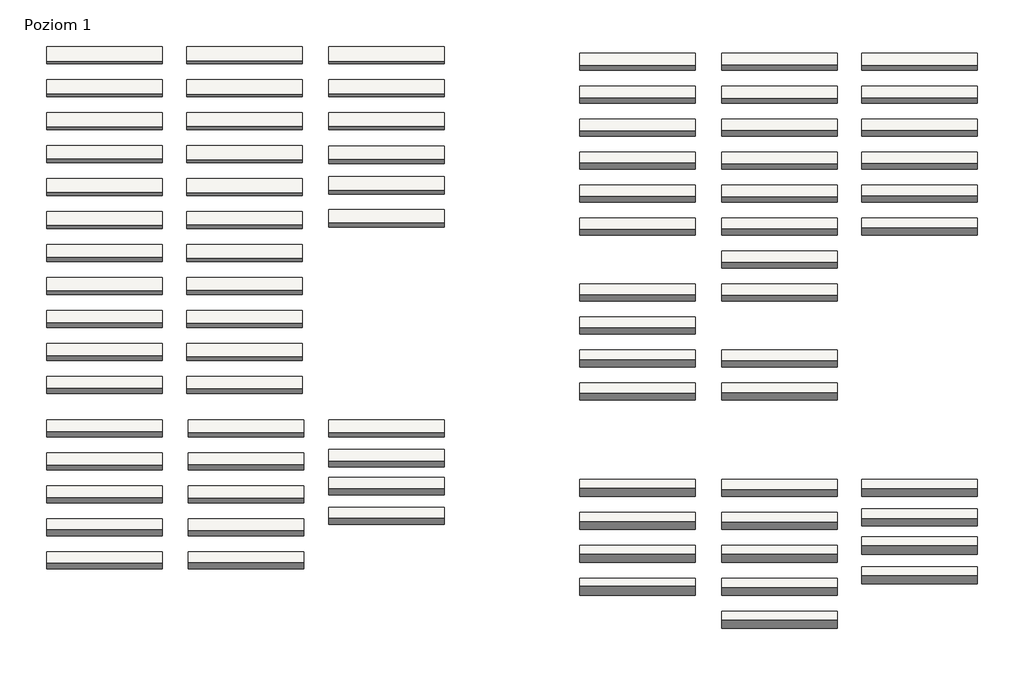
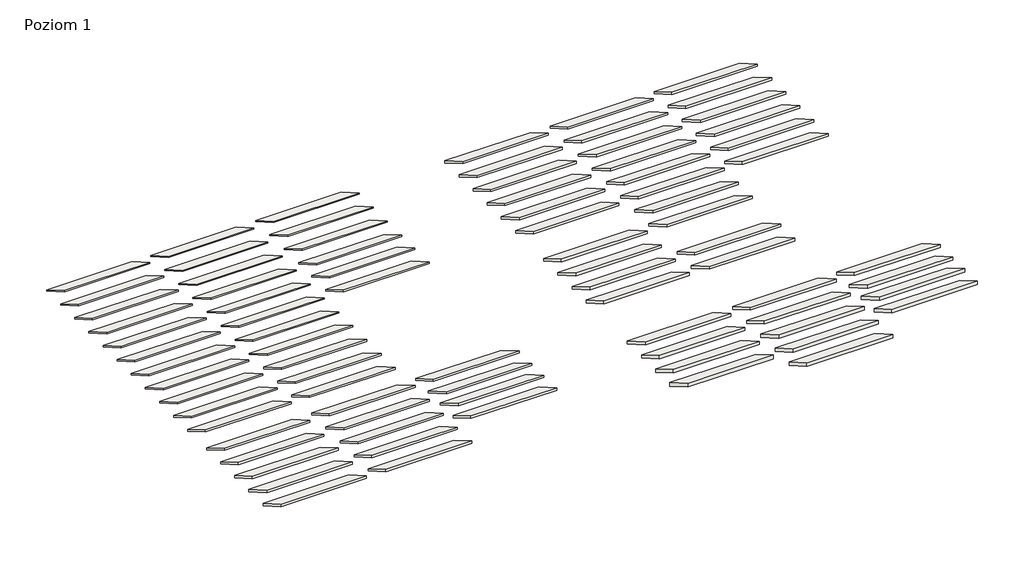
# One storey: 81 roofs.
"""IFC4 building model written with IfcOpenShell, lengths in millimetres."""

import ifcopenshell
import ifcopenshell.guid

model = None  # the IFC model being written
_history = None  # IfcOwnerHistory: only IFC2X3 demands one
_inside = {}  # id of a spatial element -> (the spatial element, [elements in it])
_under = {}  # id of a project, library or spatial element -> (it, [spatial elements below it])
_declared = {}  # id of a project -> (the project, [libraries it declares])
_typed = {}  # id of a type object -> (the type object, [elements of that type])
_made_of = {}  # id of a material, layer set ... -> (it, [elements and type objects made of it])


def new_model(schema):
    """Start an empty IFC model of exactly this schema.

    Asked for "IFC4X3", IfcOpenShell would pick the latest addendum, in which some entities
    have other attributes; the version numbers below select the first issue.
    IFC2X3 requires an IfcOwnerHistory on every rooted entity: one is made here for all.
    """
    global model, _history
    if schema == "IFC4X3":
        model = ifcopenshell.file(schema_version=(4, 3, 0, 0))
    else:
        model = ifcopenshell.file(schema=schema)
    _inside.clear()
    _under.clear()
    _declared.clear()
    _typed.clear()
    _made_of.clear()
    _history = None
    if model.schema == "IFC2X3":
        org = make("IfcOrganization", Name="unknown")
        user = make(
            "IfcPersonAndOrganization",
            ThePerson=make("IfcPerson", FamilyName="unknown"),
            TheOrganization=org,
        )
        app = make(
            "IfcApplication",
            ApplicationDeveloper=org,
            Version="unknown",
            ApplicationFullName="unknown",
            ApplicationIdentifier="unknown",
        )
        _history = make(
            "IfcOwnerHistory",
            OwningUser=user,
            OwningApplication=app,
            ChangeAction="ADDED",
            CreationDate=0,
        )
    return model


def make(cls, **values):
    """One entity of the class cls with the attributes given. An attribute that is None is left unset."""
    return model.create_entity(
        cls, **{name: value for name, value in values.items() if value is not None}
    )


def rooted(cls, **values):
    """An entity with a GlobalId (a new one), such as an element, a storey or a relation."""
    return make(cls, GlobalId=ifcopenshell.guid.new(), OwnerHistory=_history, **values)


def si_unit(unit_type, name, prefix=None):
    """IfcSIUnit, for example si_unit("LENGTHUNIT", "METRE", prefix="MILLI")."""
    return make("IfcSIUnit", UnitType=unit_type, Prefix=prefix, Name=name)


def assignment(units):
    """IfcUnitAssignment: the units of a project."""
    return None if units is None else make("IfcUnitAssignment", Units=units)


def point(xyz):
    """IfcCartesianPoint."""
    return None if xyz is None else make("IfcCartesianPoint", Coordinates=xyz)


def direction(xyz):
    """IfcDirection."""
    return None if xyz is None else make("IfcDirection", DirectionRatios=xyz)


def frame(location, z_axis=None, x_axis=None):
    """IfcAxis2Placement3D, a coordinate frame: its origin and axes. An axis left out is left unset."""
    return make(
        "IfcAxis2Placement3D",
        Location=point(location),
        Axis=direction(z_axis),
        RefDirection=direction(x_axis),
    )


def origin():
    """The frame at (0, 0, 0) with its axes left unset."""
    return frame((0.0, 0.0, 0.0))


def place(relative_to, where):
    """IfcLocalPlacement: puts the frame where relative to a parent placement (None: the world)."""
    return make(
        "IfcLocalPlacement", PlacementRelTo=relative_to, RelativePlacement=where
    )


def context(
    kind, dimensions, precision=None, world=None, true_north=None, identifier=None
):
    """IfcGeometricRepresentationContext, for example the 3D "Model" context."""
    return make(
        "IfcGeometricRepresentationContext",
        ContextIdentifier=identifier,
        ContextType=kind,
        CoordinateSpaceDimension=dimensions,
        Precision=precision,
        WorldCoordinateSystem=world,
        TrueNorth=true_north,
    )


def project(units=None, contexts=None):
    """IfcProject with its units and contexts."""
    return rooted(
        "IfcProject",
        Name="project",
        RepresentationContexts=contexts,
        UnitsInContext=assignment(units),
    )


def spatial(cls, under=None, at=None, **own):
    """A site, building, storey or space (cls), placed at a placement, below another one or the project."""
    s = rooted(cls, ObjectPlacement=at, **own)
    if under is not None:
        _under.setdefault(under.id(), (under, []))[1].append(s)
    return s


def polyline(points):
    """IfcPolyline through the points."""
    return make("IfcPolyline", Points=[point(p) for p in points])


def outline(outer, holes=None, kind="AREA"):
    """IfcArbitraryClosedProfileDef: a profile drawn as a closed curve; with holes, ...WithVoids."""
    if holes is None:
        return make("IfcArbitraryClosedProfileDef", ProfileType=kind, OuterCurve=outer)
    return make(
        "IfcArbitraryProfileDefWithVoids",
        ProfileType=kind,
        OuterCurve=outer,
        InnerCurves=holes,
    )


def extrude(swept, where, along, depth):
    """IfcExtrudedAreaSolid: the profile swept, set in the frame where, extruded along a direction by depth."""
    return make(
        "IfcExtrudedAreaSolid",
        SweptArea=swept,
        Position=where,
        ExtrudedDirection=direction(along),
        Depth=depth,
    )


def shape(context_of_items, identifier, shape_type, items):
    """IfcShapeRepresentation: the items that make up one representation, for example the "Body"."""
    return make(
        "IfcShapeRepresentation",
        ContextOfItems=context_of_items,
        RepresentationIdentifier=identifier,
        RepresentationType=shape_type,
        Items=items,
    )


def made_of(thing, what):
    """Note that an element or type object is made of a material, layer set ...; save() writes the relation."""
    if what is not None:
        _made_of.setdefault(what.id(), (what, []))[1].append(thing)
    return thing


def element(
    cls,
    number,
    at=None,
    inside=None,
    cuts=None,
    type_object=None,
    material=None,
    context=None,
    identifier="Body",
    shape_type=None,
    held_by="IfcProductDefinitionShape",
    body=None,
    shapes=None,
    **own,
):
    """One element of the class cls, such as IfcWall. Its Tag is "e" and its number.

    at: its placement. inside: the storey or other place that contains it. cuts: it is an
    opening in that element (IfcRelVoidsElement). A single representation is given by context,
    identifier, shape_type and body (its items); several are given by shapes. held_by: the class
    of the entity that holds the representations. save() writes the other relations.
    """
    e = rooted(cls, Tag="e%d" % number, ObjectPlacement=at, **own)
    if body is not None:
        shapes = [shape(context, identifier, shape_type, body)]
    if shapes is not None:
        e.Representation = make(held_by, Representations=shapes)
    if inside is not None:
        _inside.setdefault(inside.id(), (inside, []))[1].append(e)
    if cuts is not None:
        rooted(
            "IfcRelVoidsElement", RelatingBuildingElement=cuts, RelatedOpeningElement=e
        )
    if type_object is not None:
        _typed.setdefault(type_object.id(), (type_object, []))[1].append(e)
    return made_of(e, material)


def aggregate(whole, parts):
    """IfcRelAggregates: a whole, such as a stair, and the parts it consists of."""
    return rooted("IfcRelAggregates", RelatingObject=whole, RelatedObjects=parts)


def save(model, path):
    """Write the relations noted so far, then the file.

    IfcRelAggregates (storeys below a building ...), IfcRelContainedInSpatialStructure (elements
    in a storey), IfcRelDefinesByType, IfcRelAssociatesMaterial and IfcRelDeclares: one each for
    every whole, place, type object, material and project.
    """
    for whole, parts in _under.values():
        aggregate(whole, parts)
    for where, things in _inside.values():
        rooted(
            "IfcRelContainedInSpatialStructure",
            RelatedElements=things,
            RelatingStructure=where,
        )
    for kind, things in _typed.values():
        rooted("IfcRelDefinesByType", RelatedObjects=things, RelatingType=kind)
    for what, things in _made_of.values():
        rooted("IfcRelAssociatesMaterial", RelatedObjects=things, RelatingMaterial=what)
    for by, libraries in _declared.values():
        rooted("IfcRelDeclares", RelatingContext=by, RelatedDefinitions=libraries)
    model.write(path)


model = new_model("IFC4")

# Units and contexts
model_context = context("Model", 3, world=origin())
ifc_project = project(units=[si_unit("LENGTHUNIT", "METRE", prefix="MILLI")], contexts=[model_context])

# Site, building, storey
site = spatial("IfcSite", under=ifc_project)
building = spatial("IfcBuilding", under=site)
storey = spatial("IfcBuildingStorey", under=building, Name="Poziom 1", Elevation=0.0)

# Roofs
placement = place(None, origin())
element("IfcRoof", 1, ObjectType="ISOVER.DP.PlatynowyDach100.BLACHA.U0,36", at=placement, inside=storey, context=model_context, shape_type="SweptSolid", body=[
    extrude(outline(polyline([(-3646.1840898, 3074.3901834), (1353.8159102, 187.6388375), (1353.8159102, 0.0), (-3646.1840898, 2886.7513459), (-3646.1840898, 3074.3901834)])), frame((17240.8095834, 0.0, 0.0), z_axis=(1.0, 0.0, 0.0), x_axis=(0.0, 1.0, 0.0)), (0.0, 0.0, 1.0), 14000.0),
])
element("IfcRoof", 2, ObjectType="ISOVER.DP.PlatynowyDach130.BLACHA.U0,28", at=placement, inside=storey, context=model_context, shape_type="SweptSolid", body=[
    extrude(outline(polyline([(-7646.1840898, 3109.0311996), (-2646.1840898, 222.2798536), (-2646.1840898, 0.0), (-7646.1840898, 2886.7513459), (-7646.1840898, 3109.0311996)])), frame((17240.8095834, 0.0, 0.0), z_axis=(1.0, 0.0, 0.0), x_axis=(0.0, 1.0, 0.0)), (0.0, 0.0, 1.0), 14000.0),
])
element("IfcRoof", 3, ObjectType="ISOVER.DP.PlatynowyDach150.BLACHA.U0,24", at=placement, inside=storey, context=model_context, shape_type="SweptSolid", body=[
    extrude(outline(polyline([(-11646.1840898, 3132.1252104), (-6646.1840898, 245.3738644), (-6646.1840898, 0.0), (-11646.1840898, 2886.7513459), (-11646.1840898, 3132.1252104)])), frame((17240.8095834, 0.0, 0.0), z_axis=(1.0, 0.0, 0.0), x_axis=(0.0, 1.0, 0.0)), (0.0, 0.0, 1.0), 14000.0),
])
element("IfcRoof", 4, ObjectType="ISOVER.DP.PlatynowyDach160.BLACHA.U0,23", at=placement, inside=storey, context=model_context, shape_type="SweptSolid", body=[
    extrude(outline(polyline([(-15746.1840898, 3143.6722157), (-10746.1840898, 256.9208698), (-10746.1840898, 0.0), (-15746.1840898, 2886.7513459), (-15746.1840898, 3143.6722157)])), frame((17240.8095834, 0.0, 0.0), z_axis=(1.0, 0.0, 0.0), x_axis=(0.0, 1.0, 0.0)), (0.0, 0.0, 1.0), 14000.0),
])
element("IfcRoof", 5, ObjectType="ISOVER.DP.PlatynowyDach180.BLACHA.U0,20", at=placement, inside=storey, context=model_context, shape_type="SweptSolid", body=[
    extrude(outline(polyline([(-19446.1840898, 3166.7662265), (-14446.1840898, 280.0148806), (-14446.1840898, 0.0), (-19446.1840898, 2886.7513459), (-19446.1840898, 3166.7662265)])), frame((17240.8095834, 0.0, 0.0), z_axis=(1.0, 0.0, 0.0), x_axis=(0.0, 1.0, 0.0)), (0.0, 0.0, 1.0), 14000.0),
])
element("IfcRoof", 6, ObjectType="ISOVER.DP.PlatynowyDach200.BLACHA.U0,19", at=placement, inside=storey, context=model_context, shape_type="SweptSolid", body=[
    extrude(outline(polyline([(-23446.1840898, 3189.8602373), (-18446.1840898, 303.1088913), (-18446.1840898, 0.0), (-23446.1840898, 2886.7513459), (-23446.1840898, 3189.8602373)])), frame((17240.8095834, 0.0, 0.0), z_axis=(1.0, 0.0, 0.0), x_axis=(0.0, 1.0, 0.0)), (0.0, 0.0, 1.0), 14000.0),
])
element("IfcRoof", 7, ObjectType="ISOVER.DP.ZłotyDach80.BLACHA.U0,42", at=placement, inside=storey, context=model_context, shape_type="SweptSolid", body=[
    extrude(outline(polyline([(-3646.1840898, 3051.2961727), (1353.8159102, 164.5448267), (1353.8159102, 0.0), (-3646.1840898, 2886.7513459), (-3646.1840898, 3051.2961727)])), frame((40.8095834, 0.0, 0.0), z_axis=(1.0, 0.0, 0.0), x_axis=(0.0, 1.0, 0.0)), (0.0, 0.0, 1.0), 14000.0),
])
element("IfcRoof", 8, ObjectType="ISOVER.DP.ZłotyDach100.BLACHA.U0,34", at=placement, inside=storey, context=model_context, shape_type="SweptSolid", body=[
    extrude(outline(polyline([(-7646.1840898, 3074.3901834), (-2646.1840898, 187.6388375), (-2646.1840898, 0.0), (-7646.1840898, 2886.7513459), (-7646.1840898, 3074.3901834)])), frame((40.8095834, 0.0, 0.0), z_axis=(1.0, 0.0, 0.0), x_axis=(0.0, 1.0, 0.0)), (0.0, 0.0, 1.0), 14000.0),
])
element("IfcRoof", 9, ObjectType="ISOVER.DP.ZłotyDach110.BLACHA.U0,31", at=placement, inside=storey, context=model_context, shape_type="SweptSolid", body=[
    extrude(outline(polyline([(-11646.1840898, 3085.9371888), (-6646.1840898, 199.1858429), (-6646.1840898, 0.0), (-11646.1840898, 2886.7513459), (-11646.1840898, 3085.9371888)])), frame((40.8095834, 0.0, 0.0), z_axis=(1.0, 0.0, 0.0), x_axis=(0.0, 1.0, 0.0)), (0.0, 0.0, 1.0), 14000.0),
])
element("IfcRoof", 10, ObjectType="ISOVER.DP.ZłotyDach120.BLACHA.U0,29", at=placement, inside=storey, context=model_context, shape_type="SweptSolid", body=[
    extrude(outline(polyline([(-15646.1840898, 3097.4841942), (-10646.1840898, 210.7328483), (-10646.1840898, 0.0), (-15646.1840898, 2886.7513459), (-15646.1840898, 3097.4841942)])), frame((40.8095834, 0.0, 0.0), z_axis=(1.0, 0.0, 0.0), x_axis=(0.0, 1.0, 0.0)), (0.0, 0.0, 1.0), 14000.0),
])
element("IfcRoof", 11, ObjectType="ISOVER.DP.ZłotyDach130.BLACHA.U0,27", at=placement, inside=storey, context=model_context, shape_type="SweptSolid", body=[
    extrude(outline(polyline([(-19646.1840898, 3109.0311996), (-14646.1840898, 222.2798536), (-14646.1840898, 0.0), (-19646.1840898, 2886.7513459), (-19646.1840898, 3109.0311996)])), frame((40.8095834, 0.0, 0.0), z_axis=(1.0, 0.0, 0.0), x_axis=(0.0, 1.0, 0.0)), (0.0, 0.0, 1.0), 14000.0),
])
element("IfcRoof", 12, ObjectType="ISOVER.DP.ZłotyDach140.BLACHA.U0,25", at=placement, inside=storey, context=model_context, shape_type="SweptSolid", body=[
    extrude(outline(polyline([(-23646.1840898, 3120.578205), (-18646.1840898, 233.826859), (-18646.1840898, 0.0), (-23646.1840898, 2886.7513459), (-23646.1840898, 3120.578205)])), frame((40.8095834, 0.0, 0.0), z_axis=(1.0, 0.0, 0.0), x_axis=(0.0, 1.0, 0.0)), (0.0, 0.0, 1.0), 14000.0),
])
element("IfcRoof", 13, ObjectType="ISOVER.DP.ZłotyDach150.BLACHA.U0,23", at=placement, inside=storey, context=model_context, shape_type="SweptSolid", body=[
    extrude(outline(polyline([(-27646.1840898, 3132.1252104), (-22646.1840898, 245.3738644), (-22646.1840898, 0.0), (-27646.1840898, 2886.7513459), (-27646.1840898, 3132.1252104)])), frame((40.8095834, 0.0, 0.0), z_axis=(1.0, 0.0, 0.0), x_axis=(0.0, 1.0, 0.0)), (0.0, 0.0, 1.0), 14000.0),
])
element("IfcRoof", 14, ObjectType="ISOVER.DP.ZłotyDach160.BLACHA.U0,22", at=placement, inside=storey, context=model_context, shape_type="SweptSolid", body=[
    extrude(outline(polyline([(-31646.1840898, 3143.6722157), (-26646.1840898, 256.9208698), (-26646.1840898, 0.0), (-31646.1840898, 2886.7513459), (-31646.1840898, 3143.6722157)])), frame((40.8095834, 0.0, 0.0), z_axis=(1.0, 0.0, 0.0), x_axis=(0.0, 1.0, 0.0)), (0.0, 0.0, 1.0), 14000.0),
])
element("IfcRoof", 15, ObjectType="ISOVER.DP.ZłotyDach170.BLACHA.U0,21", at=placement, inside=storey, context=model_context, shape_type="SweptSolid", body=[
    extrude(outline(polyline([(-35646.1840898, 3155.2192211), (-30646.1840898, 268.4678752), (-30646.1840898, 0.0), (-35646.1840898, 2886.7513459), (-35646.1840898, 3155.2192211)])), frame((40.8095834, 0.0, 0.0), z_axis=(1.0, 0.0, 0.0), x_axis=(0.0, 1.0, 0.0)), (0.0, 0.0, 1.0), 14000.0),
])
element("IfcRoof", 16, ObjectType="ISOVER.DP.ZłotyDach180.BLACHA.U0,20", at=placement, inside=storey, context=model_context, shape_type="SweptSolid", body=[
    extrude(outline(polyline([(-39646.1840898, 3166.7662265), (-34646.1840898, 280.0148806), (-34646.1840898, 0.0), (-39646.1840898, 2886.7513459), (-39646.1840898, 3166.7662265)])), frame((40.8095834, 0.0, 0.0), z_axis=(1.0, 0.0, 0.0), x_axis=(0.0, 1.0, 0.0)), (0.0, 0.0, 1.0), 14000.0),
])
element("IfcRoof", 17, ObjectType="ISOVER.DP.ZłotyDach200.BLACHA.U0,18", at=placement, inside=storey, context=model_context, shape_type="SweptSolid", body=[
    extrude(outline(polyline([(-43646.1840898, 3189.8602373), (-38646.1840898, 303.1088913), (-38646.1840898, 0.0), (-43646.1840898, 2886.7513459), (-43646.1840898, 3189.8602373)])), frame((40.8095834, 0.0, 0.0), z_axis=(1.0, 0.0, 0.0), x_axis=(0.0, 1.0, 0.0)), (0.0, 0.0, 1.0), 14000.0),
])
element("IfcRoof", 18, ObjectType="ISOVER.DP.SrebrnyDach100.BLACHA.U0,36", at=placement, inside=storey, context=model_context, shape_type="SweptSolid", body=[
    extrude(outline(polyline([(-3646.1840898, 3074.3901834), (1353.8159102, 187.6388375), (1353.8159102, 0.0), (-3646.1840898, 2886.7513459), (-3646.1840898, 3074.3901834)])), frame((-16959.1904166, 0.0, 0.0), z_axis=(1.0, 0.0, 0.0), x_axis=(0.0, 1.0, 0.0)), (0.0, 0.0, 1.0), 14000.0),
])
element("IfcRoof", 19, ObjectType="ISOVER.DP.SrebrnyDach120.BLACHA.U0,30", at=placement, inside=storey, context=model_context, shape_type="SweptSolid", body=[
    extrude(outline(polyline([(-7646.1840898, 3097.4841942), (-2646.1840898, 210.7328483), (-2646.1840898, 0.0), (-7646.1840898, 2886.7513459), (-7646.1840898, 3097.4841942)])), frame((-16959.1904166, 0.0, 0.0), z_axis=(1.0, 0.0, 0.0), x_axis=(0.0, 1.0, 0.0)), (0.0, 0.0, 1.0), 14000.0),
])
element("IfcRoof", 20, ObjectType="ISOVER.DP.SrebrnyDach130.BLACHA.U0,28", at=placement, inside=storey, context=model_context, shape_type="SweptSolid", body=[
    extrude(outline(polyline([(-11646.1840898, 3109.0311996), (-6646.1840898, 222.2798536), (-6646.1840898, 0.0), (-11646.1840898, 2886.7513459), (-11646.1840898, 3109.0311996)])), frame((-16959.1904166, 0.0, 0.0), z_axis=(1.0, 0.0, 0.0), x_axis=(0.0, 1.0, 0.0)), (0.0, 0.0, 1.0), 14000.0),
])
element("IfcRoof", 21, ObjectType="ISOVER.DP.SrebrnyDach140.BLACHA.U0,26", at=placement, inside=storey, context=model_context, shape_type="SweptSolid", body=[
    extrude(outline(polyline([(-15646.1840898, 3120.578205), (-10646.1840898, 233.826859), (-10646.1840898, 0.0), (-15646.1840898, 2886.7513459), (-15646.1840898, 3120.578205)])), frame((-16959.1904166, 0.0, 0.0), z_axis=(1.0, 0.0, 0.0), x_axis=(0.0, 1.0, 0.0)), (0.0, 0.0, 1.0), 14000.0),
])
element("IfcRoof", 22, ObjectType="ISOVER.DP.SrebrnyDach150.BLACHA.U0,24", at=placement, inside=storey, context=model_context, shape_type="SweptSolid", body=[
    extrude(outline(polyline([(-19646.1840898, 3132.1252104), (-14646.1840898, 245.3738644), (-14646.1840898, 0.0), (-19646.1840898, 2886.7513459), (-19646.1840898, 3132.1252104)])), frame((-16959.1904166, 0.0, 0.0), z_axis=(1.0, 0.0, 0.0), x_axis=(0.0, 1.0, 0.0)), (0.0, 0.0, 1.0), 14000.0),
])
element("IfcRoof", 23, ObjectType="ISOVER.DP.SrebrnyDach160.BLACHA.U0,23", at=placement, inside=storey, context=model_context, shape_type="SweptSolid", body=[
    extrude(outline(polyline([(-23646.1840898, 3143.6722157), (-18646.1840898, 256.9208698), (-18646.1840898, 0.0), (-23646.1840898, 2886.7513459), (-23646.1840898, 3143.6722157)])), frame((-16959.1904166, 0.0, 0.0), z_axis=(1.0, 0.0, 0.0), x_axis=(0.0, 1.0, 0.0)), (0.0, 0.0, 1.0), 14000.0),
])
element("IfcRoof", 24, ObjectType="ISOVER.DP.SrebrnyDach170.BLACHA.U0,21", at=placement, inside=storey, context=model_context, shape_type="SweptSolid", body=[
    extrude(outline(polyline([(-27646.1840898, 3155.2192211), (-22646.1840898, 268.4678752), (-22646.1840898, 0.0), (-27646.1840898, 2886.7513459), (-27646.1840898, 3155.2192211)])), frame((-16959.1904166, 0.0, 0.0), z_axis=(1.0, 0.0, 0.0), x_axis=(0.0, 1.0, 0.0)), (0.0, 0.0, 1.0), 14000.0),
])
element("IfcRoof", 25, ObjectType="ISOVER.DP.SrebrnyDach180.BLACHA.U0,20", at=placement, inside=storey, context=model_context, shape_type="SweptSolid", body=[
    extrude(outline(polyline([(-31646.1840898, 3166.7662265), (-26646.1840898, 280.0148806), (-26646.1840898, 0.0), (-31646.1840898, 2886.7513459), (-31646.1840898, 3166.7662265)])), frame((-16959.1904166, 0.0, 0.0), z_axis=(1.0, 0.0, 0.0), x_axis=(0.0, 1.0, 0.0)), (0.0, 0.0, 1.0), 14000.0),
])
element("IfcRoof", 26, ObjectType="ISOVER.DP.SrebrnyDach190.BLACHA.U0,19", at=placement, inside=storey, context=model_context, shape_type="SweptSolid", body=[
    extrude(outline(polyline([(-35646.1840898, 3178.3132319), (-30646.1840898, 291.5618859), (-30646.1840898, 0.0), (-35646.1840898, 2886.7513459), (-35646.1840898, 3178.3132319)])), frame((-16959.1904166, 0.0, 0.0), z_axis=(1.0, 0.0, 0.0), x_axis=(0.0, 1.0, 0.0)), (0.0, 0.0, 1.0), 14000.0),
])
element("IfcRoof", 27, ObjectType="ISOVER.DP.SrebrnyDach200.BLACHA.U0,18", at=placement, inside=storey, context=model_context, shape_type="SweptSolid", body=[
    extrude(outline(polyline([(-39646.1840898, 3189.8602373), (-34646.1840898, 303.1088913), (-34646.1840898, 0.0), (-39646.1840898, 2886.7513459), (-39646.1840898, 3189.8602373)])), frame((-16959.1904166, 0.0, 0.0), z_axis=(1.0, 0.0, 0.0), x_axis=(0.0, 1.0, 0.0)), (0.0, 0.0, 1.0), 14000.0),
])
element("IfcRoof", 28, ObjectType="ISOVER.DP.SrebrnyDach220.BLACHA.U0,17", at=placement, inside=storey, context=model_context, shape_type="SweptSolid", body=[
    extrude(outline(polyline([(-43646.1840898, 3212.954248), (-38646.1840898, 326.2029021), (-38646.1840898, 0.0), (-43646.1840898, 2886.7513459), (-43646.1840898, 3212.954248)])), frame((-16959.1904166, 0.0, 0.0), z_axis=(1.0, 0.0, 0.0), x_axis=(0.0, 1.0, 0.0)), (0.0, 0.0, 1.0), 14000.0),
])
element("IfcRoof", 29, ObjectType="ISOVER.DP.PlatynowyDach230.BLACHA.U0,16", at=placement, inside=storey, context=model_context, shape_type="SweptSolid", body=[
    extrude(outline(polyline([(-48946.1840898, 3224.5012534), (-43946.1840898, 337.7499075), (-43946.1840898, 0.0), (-48946.1840898, 2886.7513459), (-48946.1840898, 3224.5012534)])), frame((17240.8095834, 0.0, 0.0), z_axis=(1.0, 0.0, 0.0), x_axis=(0.0, 1.0, 0.0)), (0.0, 0.0, 1.0), 14000.0),
])
element("IfcRoof", 30, ObjectType="ISOVER.DP.PlatynowyDach250.BLACHA.U0,15", at=placement, inside=storey, context=model_context, shape_type="SweptSolid", body=[
    extrude(outline(polyline([(-52546.1840898, 3247.5952642), (-47546.1840898, 360.8439182), (-47546.1840898, 0.0), (-52546.1840898, 2886.7513459), (-52546.1840898, 3247.5952642)])), frame((17240.8095834, 0.0, 0.0), z_axis=(1.0, 0.0, 0.0), x_axis=(0.0, 1.0, 0.0)), (0.0, 0.0, 1.0), 14000.0),
])
element("IfcRoof", 31, ObjectType="ISOVER.DP.PlatynowyDach280.BLACHA.U0,13", at=placement, inside=storey, context=model_context, shape_type="SweptSolid", body=[
    extrude(outline(polyline([(-55946.1840898, 3282.2362803), (-50946.1840898, 395.4849344), (-50946.1840898, 0.0), (-55946.1840898, 2886.7513459), (-55946.1840898, 3282.2362803)])), frame((17240.8095834, 0.0, 0.0), z_axis=(1.0, 0.0, 0.0), x_axis=(0.0, 1.0, 0.0)), (0.0, 0.0, 1.0), 14000.0),
])
element("IfcRoof", 32, ObjectType="ISOVER.DP.PlatynowyDach300.BLACHA.U0,12", at=placement, inside=storey, context=model_context, shape_type="SweptSolid", body=[
    extrude(outline(polyline([(-59546.1840898, 3305.3302911), (-54546.1840898, 418.5789452), (-54546.1840898, 0.0), (-59546.1840898, 2886.7513459), (-59546.1840898, 3305.3302911)])), frame((17240.8095834, 0.0, 0.0), z_axis=(1.0, 0.0, 0.0), x_axis=(0.0, 1.0, 0.0)), (0.0, 0.0, 1.0), 14000.0),
])
element("IfcRoof", 33, ObjectType="ISOVER.DP.ZłotyDach220.BLACHA.U0,16", at=placement, inside=storey, context=model_context, shape_type="SweptSolid", body=[
    extrude(outline(polyline([(-48946.1840898, 3212.954248), (-43946.1840898, 326.2029021), (-43946.1840898, 0.0), (-48946.1840898, 2886.7513459), (-48946.1840898, 3212.954248)])), frame((240.8095834, 0.0, 0.0), z_axis=(1.0, 0.0, 0.0), x_axis=(0.0, 1.0, 0.0)), (0.0, 0.0, 1.0), 14000.0),
])
element("IfcRoof", 34, ObjectType="ISOVER.DP.ZłotyDach240.BLACHA.U0,15", at=placement, inside=storey, context=model_context, shape_type="SweptSolid", body=[
    extrude(outline(polyline([(-52946.1840898, 3236.0482588), (-47946.1840898, 349.2969129), (-47946.1840898, 0.0), (-52946.1840898, 2886.7513459), (-52946.1840898, 3236.0482588)])), frame((240.8095834, 0.0, 0.0), z_axis=(1.0, 0.0, 0.0), x_axis=(0.0, 1.0, 0.0)), (0.0, 0.0, 1.0), 14000.0),
])
element("IfcRoof", 35, ObjectType="ISOVER.DP.ZłotyDach260.BLACHA.U0,14", at=placement, inside=storey, context=model_context, shape_type="SweptSolid", body=[
    extrude(outline(polyline([(-56946.1840898, 3259.1422696), (-51946.1840898, 372.3909236), (-51946.1840898, 0.0), (-56946.1840898, 2886.7513459), (-56946.1840898, 3259.1422696)])), frame((240.8095834, 0.0, 0.0), z_axis=(1.0, 0.0, 0.0), x_axis=(0.0, 1.0, 0.0)), (0.0, 0.0, 1.0), 14000.0),
])
element("IfcRoof", 36, ObjectType="ISOVER.DP.ZłotyDach280.BLACHA.U0,13", at=placement, inside=storey, context=model_context, shape_type="SweptSolid", body=[
    extrude(outline(polyline([(-60946.1840898, 3282.2362803), (-55946.1840898, 395.4849344), (-55946.1840898, 0.0), (-60946.1840898, 2886.7513459), (-60946.1840898, 3282.2362803)])), frame((240.8095834, 0.0, 0.0), z_axis=(1.0, 0.0, 0.0), x_axis=(0.0, 1.0, 0.0)), (0.0, 0.0, 1.0), 14000.0),
])
element("IfcRoof", 37, ObjectType="ISOVER.DP.ZłotyDach300.BLACHA.U0,12", at=placement, inside=storey, context=model_context, shape_type="SweptSolid", body=[
    extrude(outline(polyline([(-64946.1840898, 3305.3302911), (-59946.1840898, 418.5789452), (-59946.1840898, 0.0), (-64946.1840898, 2886.7513459), (-64946.1840898, 3305.3302911)])), frame((240.8095834, 0.0, 0.0), z_axis=(1.0, 0.0, 0.0), x_axis=(0.0, 1.0, 0.0)), (0.0, 0.0, 1.0), 14000.0),
])
element("IfcRoof", 38, ObjectType="ISOVER.DP.SrebrnyDach240.BLACHA.U0,15", at=placement, inside=storey, context=model_context, shape_type="SweptSolid", body=[
    extrude(outline(polyline([(-48946.1840898, 3236.0482588), (-43946.1840898, 349.2969129), (-43946.1840898, 0.0), (-48946.1840898, 2886.7513459), (-48946.1840898, 3236.0482588)])), frame((-16959.1904166, 0.0, 0.0), z_axis=(1.0, 0.0, 0.0), x_axis=(0.0, 1.0, 0.0)), (0.0, 0.0, 1.0), 14000.0),
])
element("IfcRoof", 39, ObjectType="ISOVER.DP.SrebrnyDach260.BLACHA.U0,14", at=placement, inside=storey, context=model_context, shape_type="SweptSolid", body=[
    extrude(outline(polyline([(-52946.1840898, 3259.1422696), (-47946.1840898, 372.3909236), (-47946.1840898, 0.0), (-52946.1840898, 2886.7513459), (-52946.1840898, 3259.1422696)])), frame((-16959.1904166, 0.0, 0.0), z_axis=(1.0, 0.0, 0.0), x_axis=(0.0, 1.0, 0.0)), (0.0, 0.0, 1.0), 14000.0),
])
element("IfcRoof", 40, ObjectType="ISOVER.DP.SrebrnyDach280.BLACHA.U0,13", at=placement, inside=storey, context=model_context, shape_type="SweptSolid", body=[
    extrude(outline(polyline([(-56946.1840898, 3282.2362803), (-51946.1840898, 395.4849344), (-51946.1840898, 0.0), (-56946.1840898, 2886.7513459), (-56946.1840898, 3282.2362803)])), frame((-16959.1904166, 0.0, 0.0), z_axis=(1.0, 0.0, 0.0), x_axis=(0.0, 1.0, 0.0)), (0.0, 0.0, 1.0), 14000.0),
])
element("IfcRoof", 41, ObjectType="ISOVER.DP.SrebrnyDach300.BLACHA.U0,12", at=placement, inside=storey, context=model_context, shape_type="SweptSolid", body=[
    extrude(outline(polyline([(-60946.1840898, 3305.3302911), (-55946.1840898, 418.5789452), (-55946.1840898, 0.0), (-60946.1840898, 2886.7513459), (-60946.1840898, 3305.3302911)])), frame((-16959.1904166, 0.0, 0.0), z_axis=(1.0, 0.0, 0.0), x_axis=(0.0, 1.0, 0.0)), (0.0, 0.0, 1.0), 14000.0),
])
element("IfcRoof", 42, ObjectType="ISOVER.DP.SrebrnyDach320.BLACHA.U0,11", at=placement, inside=storey, context=model_context, shape_type="SweptSolid", body=[
    extrude(outline(polyline([(-64946.1840898, 3328.4243019), (-59946.1840898, 441.6729559), (-59946.1840898, 0.0), (-64946.1840898, 2886.7513459), (-64946.1840898, 3328.4243019)])), frame((-16959.1904166, 0.0, 0.0), z_axis=(1.0, 0.0, 0.0), x_axis=(0.0, 1.0, 0.0)), (0.0, 0.0, 1.0), 14000.0),
])
element("IfcRoof", 43, ObjectType="ISOVER.DP.PlatynowyDach100.ŻELBET.U0,34", at=placement, inside=storey, context=model_context, shape_type="SweptSolid", body=[
    extrude(outline(polyline([(-4446.1840898, 3253.3687669), (553.8159102, 366.6174209), (553.8159102, 0.0), (-4446.1840898, 2886.7513459), (-4446.1840898, 3253.3687669)])), frame((81889.819964, 0.0, 0.0), z_axis=(1.0, 0.0, 0.0), x_axis=(0.0, 1.0, 0.0)), (0.0, 0.0, 1.0), 14000.0),
])
element("IfcRoof", 44, ObjectType="ISOVER.DP.PlatynowyDach130.ŻELBET.U0,28", at=placement, inside=storey, context=model_context, shape_type="SweptSolid", body=[
    extrude(outline(polyline([(-8446.1840898, 3288.009783), (-3446.1840898, 401.2584371), (-3446.1840898, 0.0), (-8446.1840898, 2886.7513459), (-8446.1840898, 3288.009783)])), frame((81889.819964, 0.0, 0.0), z_axis=(1.0, 0.0, 0.0), x_axis=(0.0, 1.0, 0.0)), (0.0, 0.0, 1.0), 14000.0),
])
element("IfcRoof", 45, ObjectType="ISOVER.DP.PlatynowyDach150.ŻELBET.U0,24", at=placement, inside=storey, context=model_context, shape_type="SweptSolid", body=[
    extrude(outline(polyline([(-12446.1840898, 3311.1037938), (-7446.1840898, 424.3524479), (-7446.1840898, 0.0), (-12446.1840898, 2886.7513459), (-12446.1840898, 3311.1037938)])), frame((81889.819964, 0.0, 0.0), z_axis=(1.0, 0.0, 0.0), x_axis=(0.0, 1.0, 0.0)), (0.0, 0.0, 1.0), 14000.0),
])
element("IfcRoof", 46, ObjectType="ISOVER.DP.PlatynowyDach160.ŻELBET.U0,22", at=placement, inside=storey, context=model_context, shape_type="SweptSolid", body=[
    extrude(outline(polyline([(-16446.1840898, 3322.6507992), (-11446.1840898, 435.8994532), (-11446.1840898, 0.0), (-16446.1840898, 2886.7513459), (-16446.1840898, 3322.6507992)])), frame((81889.819964, 0.0, 0.0), z_axis=(1.0, 0.0, 0.0), x_axis=(0.0, 1.0, 0.0)), (0.0, 0.0, 1.0), 14000.0),
])
element("IfcRoof", 47, ObjectType="ISOVER.DP.PlatynowyDach180.ŻELBET.U0,21", at=placement, inside=storey, context=model_context, shape_type="SweptSolid", body=[
    extrude(outline(polyline([(-20446.1840898, 3345.74481), (-15446.1840898, 458.993464), (-15446.1840898, 0.0), (-20446.1840898, 2886.7513459), (-20446.1840898, 3345.74481)])), frame((81889.819964, 0.0, 0.0), z_axis=(1.0, 0.0, 0.0), x_axis=(0.0, 1.0, 0.0)), (0.0, 0.0, 1.0), 14000.0),
])
element("IfcRoof", 48, ObjectType="ISOVER.DP.PlatynowyDach200.ŻELBET.U0,19", at=placement, inside=storey, context=model_context, shape_type="SweptSolid", body=[
    extrude(outline(polyline([(-24446.1840898, 3368.8388207), (-19446.1840898, 482.0874748), (-19446.1840898, 0.0), (-24446.1840898, 2886.7513459), (-24446.1840898, 3368.8388207)])), frame((81889.819964, 0.0, 0.0), z_axis=(1.0, 0.0, 0.0), x_axis=(0.0, 1.0, 0.0)), (0.0, 0.0, 1.0), 14000.0),
])
element("IfcRoof", 49, ObjectType="ISOVER.DP.ZłotyDach80.ŻELBET.U0,41", at=placement, inside=storey, context=model_context, shape_type="SweptSolid", body=[
    extrude(outline(polyline([(-4446.1840898, 3230.2747561), (553.8159102, 343.5234102), (553.8159102, 0.0), (-4446.1840898, 2886.7513459), (-4446.1840898, 3230.2747561)])), frame((64889.819964, 0.0, 0.0), z_axis=(1.0, 0.0, 0.0), x_axis=(0.0, 1.0, 0.0)), (0.0, 0.0, 1.0), 14000.0),
])
element("IfcRoof", 50, ObjectType="ISOVER.DP.ZłotyDach100.ŻELBET.U0,33", at=placement, inside=storey, context=model_context, shape_type="SweptSolid", body=[
    extrude(outline(polyline([(-8446.1840898, 3253.3687669), (-3446.1840898, 366.6174209), (-3446.1840898, 0.0), (-8446.1840898, 2886.7513459), (-8446.1840898, 3253.3687669)])), frame((64889.819964, 0.0, 0.0), z_axis=(1.0, 0.0, 0.0), x_axis=(0.0, 1.0, 0.0)), (0.0, 0.0, 1.0), 14000.0),
])
element("IfcRoof", 51, ObjectType="ISOVER.DP.ZłotyDach110.ŻELBET.U0,30", at=placement, inside=storey, context=model_context, shape_type="SweptSolid", body=[
    extrude(outline(polyline([(-12446.1840898, 3264.9157723), (-7446.1840898, 378.1644263), (-7446.1840898, 0.0), (-12446.1840898, 2886.7513459), (-12446.1840898, 3264.9157723)])), frame((64889.819964, 0.0, 0.0), z_axis=(1.0, 0.0, 0.0), x_axis=(0.0, 1.0, 0.0)), (0.0, 0.0, 1.0), 14000.0),
])
element("IfcRoof", 52, ObjectType="ISOVER.DP.ZłotyDach120.ŻELBET.U0,28", at=placement, inside=storey, context=model_context, shape_type="SweptSolid", body=[
    extrude(outline(polyline([(-16446.1840898, 3276.4627777), (-11446.1840898, 389.7114317), (-11446.1840898, 0.0), (-16446.1840898, 2886.7513459), (-16446.1840898, 3276.4627777)])), frame((64889.819964, 0.0, 0.0), z_axis=(1.0, 0.0, 0.0), x_axis=(0.0, 1.0, 0.0)), (0.0, 0.0, 1.0), 14000.0),
])
element("IfcRoof", 53, ObjectType="ISOVER.DP.ZłotyDach130.ŻELBET.U0,27", at=placement, inside=storey, context=model_context, shape_type="SweptSolid", body=[
    extrude(outline(polyline([(-20446.1840898, 3288.009783), (-15446.1840898, 401.2584371), (-15446.1840898, 0.0), (-20446.1840898, 2886.7513459), (-20446.1840898, 3288.009783)])), frame((64889.819964, 0.0, 0.0), z_axis=(1.0, 0.0, 0.0), x_axis=(0.0, 1.0, 0.0)), (0.0, 0.0, 1.0), 14000.0),
])
element("IfcRoof", 54, ObjectType="ISOVER.DP.ZłotyDach140.ŻELBET.U0,24", at=placement, inside=storey, context=model_context, shape_type="SweptSolid", body=[
    extrude(outline(polyline([(-24446.1840898, 3299.5567884), (-19446.1840898, 412.8054425), (-19446.1840898, 0.0), (-24446.1840898, 2886.7513459), (-24446.1840898, 3299.5567884)])), frame((64889.819964, 0.0, 0.0), z_axis=(1.0, 0.0, 0.0), x_axis=(0.0, 1.0, 0.0)), (0.0, 0.0, 1.0), 14000.0),
])
element("IfcRoof", 55, ObjectType="ISOVER.DP.ZłotyDach150.ŻELBET.U0,23", at=placement, inside=storey, context=model_context, shape_type="SweptSolid", body=[
    extrude(outline(polyline([(-28446.1840898, 3311.1037938), (-23446.1840898, 424.3524479), (-23446.1840898, 0.0), (-28446.1840898, 2886.7513459), (-28446.1840898, 3311.1037938)])), frame((64889.819964, 0.0, 0.0), z_axis=(1.0, 0.0, 0.0), x_axis=(0.0, 1.0, 0.0)), (0.0, 0.0, 1.0), 14000.0),
])
element("IfcRoof", 56, ObjectType="ISOVER.DP.ZłotyDach160.ŻELBET.U0,21", at=placement, inside=storey, context=model_context, shape_type="SweptSolid", body=[
    extrude(outline(polyline([(-32446.1840898, 3322.6507992), (-27446.1840898, 435.8994532), (-27446.1840898, 0.0), (-32446.1840898, 2886.7513459), (-32446.1840898, 3322.6507992)])), frame((64889.819964, 0.0, 0.0), z_axis=(1.0, 0.0, 0.0), x_axis=(0.0, 1.0, 0.0)), (0.0, 0.0, 1.0), 14000.0),
])
element("IfcRoof", 57, ObjectType="ISOVER.DP.ZłotyDach180.ŻELBET.U0,20", at=placement, inside=storey, context=model_context, shape_type="SweptSolid", body=[
    extrude(outline(polyline([(-40446.1840898, 3345.74481), (-35446.1840898, 458.993464), (-35446.1840898, 0.0), (-40446.1840898, 2886.7513459), (-40446.1840898, 3345.74481)])), frame((64889.819964, 0.0, 0.0), z_axis=(1.0, 0.0, 0.0), x_axis=(0.0, 1.0, 0.0)), (0.0, 0.0, 1.0), 14000.0),
])
element("IfcRoof", 58, ObjectType="ISOVER.DP.ZłotyDach200.ŻELBET.U0,18", at=placement, inside=storey, context=model_context, shape_type="SweptSolid", body=[
    extrude(outline(polyline([(-44446.1840898, 3368.8388207), (-39446.1840898, 482.0874748), (-39446.1840898, 0.0), (-44446.1840898, 2886.7513459), (-44446.1840898, 3368.8388207)])), frame((64889.819964, 0.0, 0.0), z_axis=(1.0, 0.0, 0.0), x_axis=(0.0, 1.0, 0.0)), (0.0, 0.0, 1.0), 14000.0),
])
element("IfcRoof", 59, ObjectType="ISOVER.DP.SrebrnyDach100.ŻELBET.U0,34", at=placement, inside=storey, context=model_context, shape_type="SweptSolid", body=[
    extrude(outline(polyline([(-4446.1840898, 3253.3687669), (553.8159102, 366.6174209), (553.8159102, 0.0), (-4446.1840898, 2886.7513459), (-4446.1840898, 3253.3687669)])), frame((47689.819964, 0.0, 0.0), z_axis=(1.0, 0.0, 0.0), x_axis=(0.0, 1.0, 0.0)), (0.0, 0.0, 1.0), 14000.0),
])
element("IfcRoof", 60, ObjectType="ISOVER.DP.SrebrnyDach120.ŻELBET.U0,29", at=placement, inside=storey, context=model_context, shape_type="SweptSolid", body=[
    extrude(outline(polyline([(-8446.1840898, 3276.4627777), (-3446.1840898, 389.7114317), (-3446.1840898, 0.0), (-8446.1840898, 2886.7513459), (-8446.1840898, 3276.4627777)])), frame((47689.819964, 0.0, 0.0), z_axis=(1.0, 0.0, 0.0), x_axis=(0.0, 1.0, 0.0)), (0.0, 0.0, 1.0), 14000.0),
])
element("IfcRoof", 61, ObjectType="ISOVER.DP.SrebrnyDach130.ŻELBET.U0,28", at=placement, inside=storey, context=model_context, shape_type="SweptSolid", body=[
    extrude(outline(polyline([(-12446.1840898, 3288.009783), (-7446.1840898, 401.2584371), (-7446.1840898, 0.0), (-12446.1840898, 2886.7513459), (-12446.1840898, 3288.009783)])), frame((47689.819964, 0.0, 0.0), z_axis=(1.0, 0.0, 0.0), x_axis=(0.0, 1.0, 0.0)), (0.0, 0.0, 1.0), 14000.0),
])
element("IfcRoof", 62, ObjectType="ISOVER.DP.SrebrnyDach140.ŻELBET.U0,25", at=placement, inside=storey, context=model_context, shape_type="SweptSolid", body=[
    extrude(outline(polyline([(-16446.1840898, 3299.5567884), (-11446.1840898, 412.8054425), (-11446.1840898, 0.0), (-16446.1840898, 2886.7513459), (-16446.1840898, 3299.5567884)])), frame((47689.819964, 0.0, 0.0), z_axis=(1.0, 0.0, 0.0), x_axis=(0.0, 1.0, 0.0)), (0.0, 0.0, 1.0), 14000.0),
])
element("IfcRoof", 63, ObjectType="ISOVER.DP.SrebrnyDach150.ŻELBET.U0,23", at=placement, inside=storey, context=model_context, shape_type="SweptSolid", body=[
    extrude(outline(polyline([(-20446.1840898, 3311.1037938), (-15446.1840898, 424.3524479), (-15446.1840898, 0.0), (-20446.1840898, 2886.7513459), (-20446.1840898, 3311.1037938)])), frame((47689.819964, 0.0, 0.0), z_axis=(1.0, 0.0, 0.0), x_axis=(0.0, 1.0, 0.0)), (0.0, 0.0, 1.0), 14000.0),
])
element("IfcRoof", 64, ObjectType="ISOVER.DP.SrebrnyDach160.ŻELBET.U0,22", at=placement, inside=storey, context=model_context, shape_type="SweptSolid", body=[
    extrude(outline(polyline([(-24446.1840898, 3322.6507992), (-19446.1840898, 435.8994532), (-19446.1840898, 0.0), (-24446.1840898, 2886.7513459), (-24446.1840898, 3322.6507992)])), frame((47689.819964, 0.0, 0.0), z_axis=(1.0, 0.0, 0.0), x_axis=(0.0, 1.0, 0.0)), (0.0, 0.0, 1.0), 14000.0),
])
element("IfcRoof", 65, ObjectType="ISOVER.DP.SrebrnyDach180.ŻELBET.U0,21", at=placement, inside=storey, context=model_context, shape_type="SweptSolid", body=[
    extrude(outline(polyline([(-32446.1840898, 3345.74481), (-27446.1840898, 458.993464), (-27446.1840898, 0.0), (-32446.1840898, 2886.7513459), (-32446.1840898, 3345.74481)])), frame((47689.819964, 0.0, 0.0), z_axis=(1.0, 0.0, 0.0), x_axis=(0.0, 1.0, 0.0)), (0.0, 0.0, 1.0), 14000.0),
])
element("IfcRoof", 66, ObjectType="ISOVER.DP.SrebrnyDach190.ŻELBET.U0,19", at=placement, inside=storey, context=model_context, shape_type="SweptSolid", body=[
    extrude(outline(polyline([(-36446.1840898, 3357.2918153), (-31446.1840898, 470.5404694), (-31446.1840898, 0.0), (-36446.1840898, 2886.7513459), (-36446.1840898, 3357.2918153)])), frame((47689.819964, 0.0, 0.0), z_axis=(1.0, 0.0, 0.0), x_axis=(0.0, 1.0, 0.0)), (0.0, 0.0, 1.0), 14000.0),
])
element("IfcRoof", 67, ObjectType="ISOVER.DP.SrebrnyDach200.ŻELBET.U0,18", at=placement, inside=storey, context=model_context, shape_type="SweptSolid", body=[
    extrude(outline(polyline([(-40446.1840898, 3368.8388207), (-35446.1840898, 482.0874748), (-35446.1840898, 0.0), (-40446.1840898, 2886.7513459), (-40446.1840898, 3368.8388207)])), frame((47689.819964, 0.0, 0.0), z_axis=(1.0, 0.0, 0.0), x_axis=(0.0, 1.0, 0.0)), (0.0, 0.0, 1.0), 14000.0),
])
element("IfcRoof", 68, ObjectType="ISOVER.DP.SrebrnyDach220.ŻELBET.U0,16", at=placement, inside=storey, context=model_context, shape_type="SweptSolid", body=[
    extrude(outline(polyline([(-44446.1840898, 3391.9328315), (-39446.1840898, 505.1814855), (-39446.1840898, 0.0), (-44446.1840898, 2886.7513459), (-44446.1840898, 3391.9328315)])), frame((47689.819964, 0.0, 0.0), z_axis=(1.0, 0.0, 0.0), x_axis=(0.0, 1.0, 0.0)), (0.0, 0.0, 1.0), 14000.0),
])
element("IfcRoof", 69, ObjectType="ISOVER.DP.PlatynowyDach230.ŻELBET.U0,16", at=placement, inside=storey, context=model_context, shape_type="SweptSolid", body=[
    extrude(outline(polyline([(-56146.1840898, 3403.4798369), (-51146.1840898, 516.7284909), (-51146.1840898, 0.0), (-56146.1840898, 2886.7513459), (-56146.1840898, 3403.4798369)])), frame((81889.819964, 0.0, 0.0), z_axis=(1.0, 0.0, 0.0), x_axis=(0.0, 1.0, 0.0)), (0.0, 0.0, 1.0), 14000.0),
])
element("IfcRoof", 70, ObjectType="ISOVER.DP.PlatynowyDach250.ŻELBET.U0,15", at=placement, inside=storey, context=model_context, shape_type="SweptSolid", body=[
    extrude(outline(polyline([(-59746.1840898, 3426.5738476), (-54746.1840898, 539.8225017), (-54746.1840898, 0.0), (-59746.1840898, 2886.7513459), (-59746.1840898, 3426.5738476)])), frame((81889.819964, 0.0, 0.0), z_axis=(1.0, 0.0, 0.0), x_axis=(0.0, 1.0, 0.0)), (0.0, 0.0, 1.0), 14000.0),
])
element("IfcRoof", 71, ObjectType="ISOVER.DP.PlatynowyDach280.ŻELBET.U0,14", at=placement, inside=storey, context=model_context, shape_type="SweptSolid", body=[
    extrude(outline(polyline([(-63146.1840898, 3461.2148638), (-58146.1840898, 574.4635178), (-58146.1840898, 0.0), (-63146.1840898, 2886.7513459), (-63146.1840898, 3461.2148638)])), frame((81889.819964, 0.0, 0.0), z_axis=(1.0, 0.0, 0.0), x_axis=(0.0, 1.0, 0.0)), (0.0, 0.0, 1.0), 14000.0),
])
element("IfcRoof", 72, ObjectType="ISOVER.DP.PlatynowyDach300.ŻELBET.U0,12", at=placement, inside=storey, context=model_context, shape_type="SweptSolid", body=[
    extrude(outline(polyline([(-66746.1840898, 3484.3088746), (-61746.1840898, 597.5575286), (-61746.1840898, 0.0), (-66746.1840898, 2886.7513459), (-66746.1840898, 3484.3088746)])), frame((81889.819964, 0.0, 0.0), z_axis=(1.0, 0.0, 0.0), x_axis=(0.0, 1.0, 0.0)), (0.0, 0.0, 1.0), 14000.0),
])
element("IfcRoof", 73, ObjectType="ISOVER.DP.ZłotyDach220.ŻELBET.U0,16", at=placement, inside=storey, context=model_context, shape_type="SweptSolid", body=[
    extrude(outline(polyline([(-56146.1840898, 3391.9328315), (-51146.1840898, 505.1814855), (-51146.1840898, 0.0), (-56146.1840898, 2886.7513459), (-56146.1840898, 3391.9328315)])), frame((64889.819964, 0.0, 0.0), z_axis=(1.0, 0.0, 0.0), x_axis=(0.0, 1.0, 0.0)), (0.0, 0.0, 1.0), 14000.0),
])
element("IfcRoof", 74, ObjectType="ISOVER.DP.ZłotyDach240.ŻELBET.U0,15", at=placement, inside=storey, context=model_context, shape_type="SweptSolid", body=[
    extrude(outline(polyline([(-60146.1840898, 3415.0268423), (-55146.1840898, 528.2754963), (-55146.1840898, 0.0), (-60146.1840898, 2886.7513459), (-60146.1840898, 3415.0268423)])), frame((64889.819964, 0.0, 0.0), z_axis=(1.0, 0.0, 0.0), x_axis=(0.0, 1.0, 0.0)), (0.0, 0.0, 1.0), 14000.0),
])
element("IfcRoof", 75, ObjectType="ISOVER.DP.ZłotyDach260.ŻELBET.U0,14", at=placement, inside=storey, context=model_context, shape_type="SweptSolid", body=[
    extrude(outline(polyline([(-64146.1840898, 3438.120853), (-59146.1840898, 551.3695071), (-59146.1840898, 0.0), (-64146.1840898, 2886.7513459), (-64146.1840898, 3438.120853)])), frame((64889.819964, 0.0, 0.0), z_axis=(1.0, 0.0, 0.0), x_axis=(0.0, 1.0, 0.0)), (0.0, 0.0, 1.0), 14000.0),
])
element("IfcRoof", 76, ObjectType="ISOVER.DP.ZłotyDach280.ŻELBET.U0,13", at=placement, inside=storey, context=model_context, shape_type="SweptSolid", body=[
    extrude(outline(polyline([(-68146.1840898, 3461.2148638), (-63146.1840898, 574.4635178), (-63146.1840898, 0.0), (-68146.1840898, 2886.7513459), (-68146.1840898, 3461.2148638)])), frame((64889.819964, 0.0, 0.0), z_axis=(1.0, 0.0, 0.0), x_axis=(0.0, 1.0, 0.0)), (0.0, 0.0, 1.0), 14000.0),
])
element("IfcRoof", 77, ObjectType="ISOVER.DP.ZłotyDach300.ŻELBET.U0,12", at=placement, inside=storey, context=model_context, shape_type="SweptSolid", body=[
    extrude(outline(polyline([(-72146.1840898, 3484.3088746), (-67146.1840898, 597.5575286), (-67146.1840898, 0.0), (-72146.1840898, 2886.7513459), (-72146.1840898, 3484.3088746)])), frame((64889.819964, 0.0, 0.0), z_axis=(1.0, 0.0, 0.0), x_axis=(0.0, 1.0, 0.0)), (0.0, 0.0, 1.0), 14000.0),
])
element("IfcRoof", 78, ObjectType="ISOVER.DP.SrebrnyDach260.ŻELBET.U0,14", at=placement, inside=storey, context=model_context, shape_type="SweptSolid", body=[
    extrude(outline(polyline([(-56146.1840898, 3438.120853), (-51146.1840898, 551.3695071), (-51146.1840898, 0.0), (-56146.1840898, 2886.7513459), (-56146.1840898, 3438.120853)])), frame((47689.819964, 0.0, 0.0), z_axis=(1.0, 0.0, 0.0), x_axis=(0.0, 1.0, 0.0)), (0.0, 0.0, 1.0), 14000.0),
])
element("IfcRoof", 79, ObjectType="ISOVER.DP.SrebrnyDach280.ŻELBET.U0,13", at=placement, inside=storey, context=model_context, shape_type="SweptSolid", body=[
    extrude(outline(polyline([(-60146.1840898, 3461.2148638), (-55146.1840898, 574.4635178), (-55146.1840898, 0.0), (-60146.1840898, 2886.7513459), (-60146.1840898, 3461.2148638)])), frame((47689.819964, 0.0, 0.0), z_axis=(1.0, 0.0, 0.0), x_axis=(0.0, 1.0, 0.0)), (0.0, 0.0, 1.0), 14000.0),
])
element("IfcRoof", 80, ObjectType="ISOVER.DP.SrebrnyDach300.ŻELBET.U0,12", at=placement, inside=storey, context=model_context, shape_type="SweptSolid", body=[
    extrude(outline(polyline([(-64146.1840898, 3484.3088746), (-59146.1840898, 597.5575286), (-59146.1840898, 0.0), (-64146.1840898, 2886.7513459), (-64146.1840898, 3484.3088746)])), frame((47689.819964, 0.0, 0.0), z_axis=(1.0, 0.0, 0.0), x_axis=(0.0, 1.0, 0.0)), (0.0, 0.0, 1.0), 14000.0),
])
element("IfcRoof", 81, ObjectType="ISOVER.DP.SrebrnyDach320.ŻELBET.U0,11", at=placement, inside=storey, context=model_context, shape_type="SweptSolid", body=[
    extrude(outline(polyline([(-68146.1840898, 3507.4028853), (-63146.1840898, 620.6515394), (-63146.1840898, 0.0), (-68146.1840898, 2886.7513459), (-68146.1840898, 3507.4028853)])), frame((47689.819964, 0.0, 0.0), z_axis=(1.0, 0.0, 0.0), x_axis=(0.0, 1.0, 0.0)), (0.0, 0.0, 1.0), 14000.0),
])

save(model, "model.ifc")
